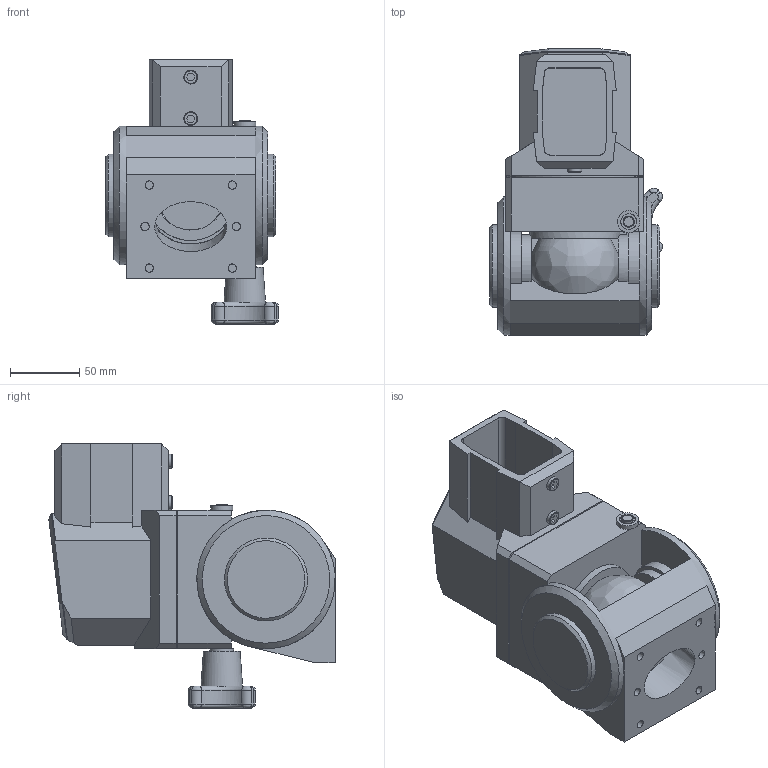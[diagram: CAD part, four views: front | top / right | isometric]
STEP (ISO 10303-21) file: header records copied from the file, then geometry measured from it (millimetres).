
FILE_DESCRIPTION((''),'2;1');
FILE_NAME('D:\scratch\ideas\ccs2estlg.stp','2006-10-27T14:17:40',( 'User'),('SDRC'),'I-DEAS Master Series 9','UNIX','Yes');
FILE_SCHEMA(('AUTOMOTIVE_DESIGN { 1 0 10303 214 0 1 1 1 }'));
Length unit declared in the file: millimetre
Products named in the file (1): 41899
Bounding box: 124.81 x 206.99 x 191 mm (x, y, z)
Surface area: 193633.1 mm2 (no closed solid volume)
Topology: 0 solids, 1 shells, 236 faces, 629 edges, 422 vertices
Faces by surface type: bspline 236
Entity records: 7940 total; most frequent: CARTESIAN_POINT 4359, ORIENTED_EDGE 1212, EDGE_CURVE 604, VERTEX_POINT 379, EDGE_LOOP 265, B_SPLINE_CURVE_WITH_KNOTS 240, FACE_OUTER_BOUND 236, ADVANCED_FACE 236
